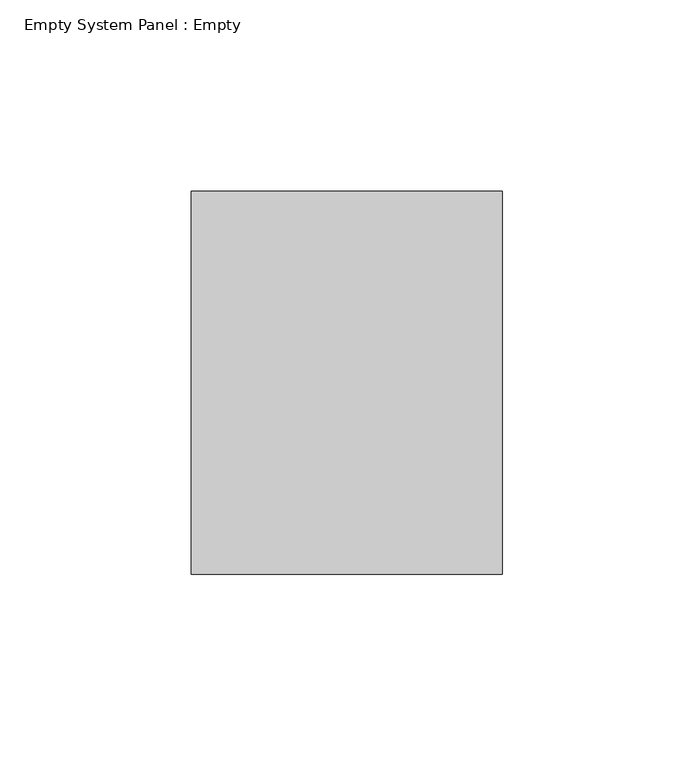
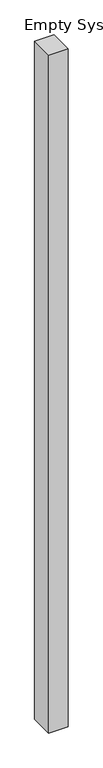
"""IFC4 building model written with IfcOpenShell, lengths in millimetres: plate geometry, Empty System Panel : Empty."""

from ifc_helpers import new_model, si_unit, origin, origin_with_axes, place, context, project, spatial, polyline, outline, extrude, source, transform, mapped, element, save


def empty_system_panel_empty_ba5a9e04(model_context):
    return source(origin(), model_context, "Body", "SweptSolid", [
        extrude(outline(polyline([(40.5897521, 50.0), (-40.5897521, 50.0), (-40.5897521, 150.0), (40.5897521, 150.0), (40.5897521, 50.0)])), origin_with_axes(), (0.0, 0.0, 1.0), 3000.0),
    ])


if __name__ == "__main__":
    model = new_model("IFC4")
    model_context = context("Model", 3, world=origin())
    ifc_project = project(units=[si_unit("LENGTHUNIT", "METRE", prefix="MILLI")], contexts=[model_context])
    site = spatial("IfcSite", under=ifc_project)
    building = spatial("IfcBuilding", under=site)
    placement = place(None, origin())
    empty_system_panel_empty_shape = empty_system_panel_empty_ba5a9e04(model_context)
    element("IfcPlate", 1, ObjectType="Empty System Panel : Empty", at=placement, inside=building, context=model_context, shape_type="MappedRepresentation", body=[
        mapped(empty_system_panel_empty_shape, transform((0.0, 0.0, 0.0), x_axis=(1.0, 0.0, 0.0), y_axis=(0.0, 1.0, 0.0), z_axis=(0.0, 0.0, 1.0))),
    ])
    save(model, "model.ifc")
